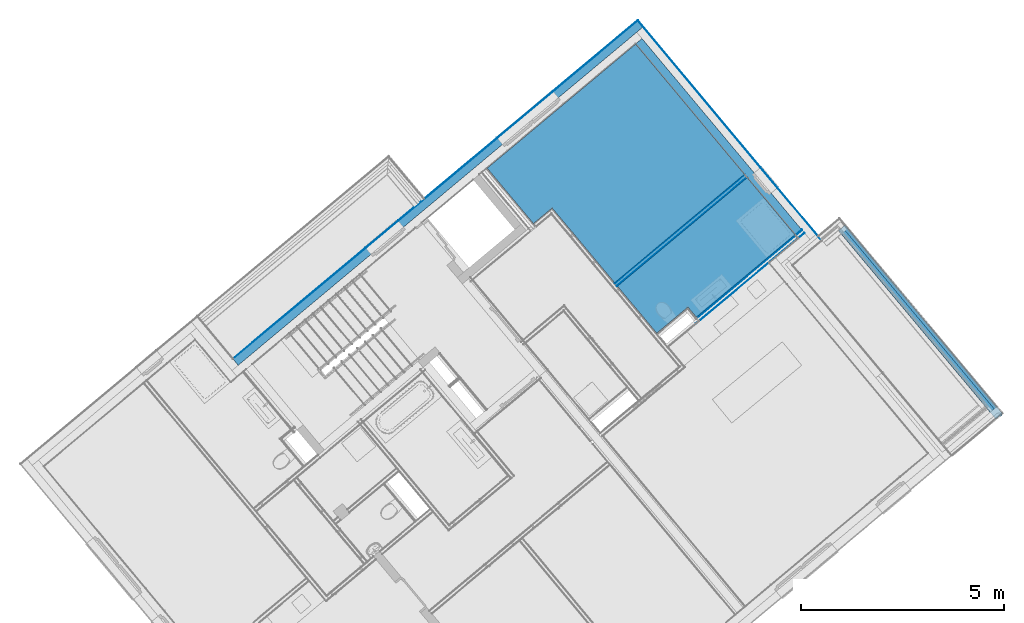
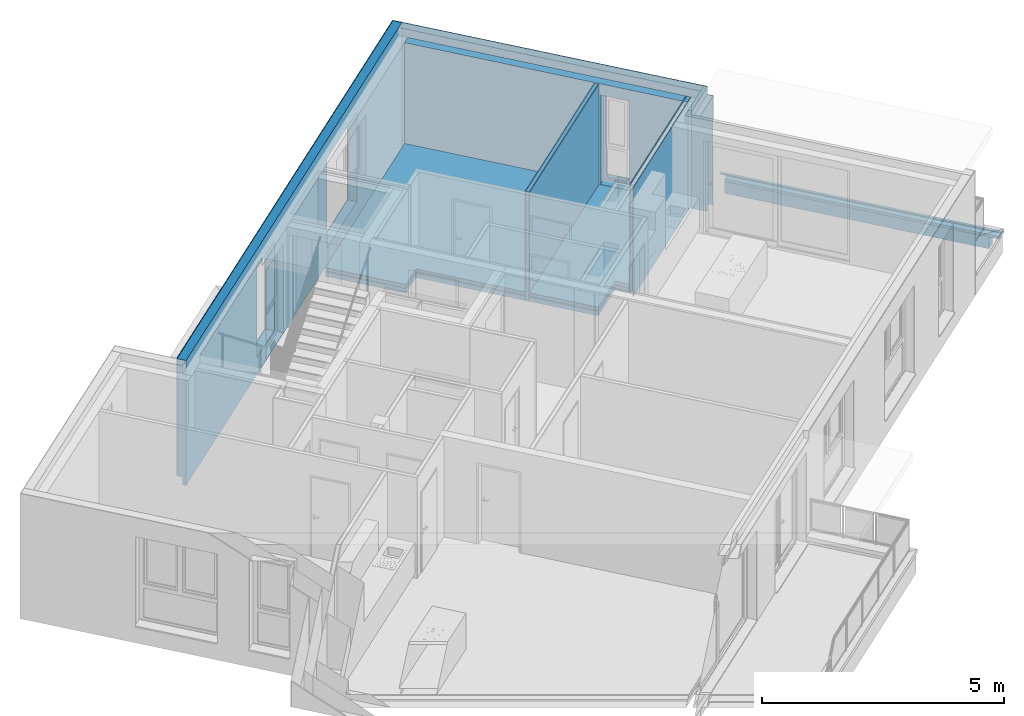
# One storey, part 34 of 50: 21 building element parts, 3 openings, 7 elements without a shape of their own.
"""IFC4 building model written with IfcOpenShell, lengths in metres."""

from ifc_helpers import new_model, entity, si_unit, converted_unit, derived_unit, direction, frame, origin_with_axes, place, context, subcontext, project, spatial, polygons, material, type_object, element, aggregate, save


model = new_model("IFC4")

# Units and contexts
model_context = context("Model", 3, precision=1e-05, world=origin_with_axes(), true_north=direction((0.0, 1.0)))
body_context = subcontext(model_context, "Body", "Model", "MODEL_VIEW")
ifc_project = project(units=[si_unit("LENGTHUNIT", "METRE"), si_unit("AREAUNIT", "SQUARE_METRE"), si_unit("VOLUMEUNIT", "CUBIC_METRE"), converted_unit("PLANEANGLEUNIT", "DEGREE", entity("IfcPlaneAngleMeasure", 0.0174532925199), si_unit("PLANEANGLEUNIT", "RADIAN"), dimensions=[0, 0, 0, 0, 0, 0, 0]), converted_unit("TIMEUNIT", "Year", entity("IfcTimeMeasure", 31556926.0), si_unit("TIMEUNIT", "SECOND"), dimensions=[0, 0, 1, 0, 0, 0, 0]), si_unit("MASSUNIT", "GRAM", prefix="KILO"), si_unit("THERMODYNAMICTEMPERATUREUNIT", "DEGREE_CELSIUS"), si_unit("LUMINOUSINTENSITYUNIT", "LUMEN"), si_unit("ENERGYUNIT", "JOULE", prefix="MEGA"), derived_unit("THERMALCONDUCTANCEUNIT", [(si_unit("POWERUNIT", "WATT"), 1), (si_unit("LENGTHUNIT", "METRE"), -1), (si_unit("THERMODYNAMICTEMPERATUREUNIT", "KELVIN"), -1)]), derived_unit("SPECIFICHEATCAPACITYUNIT", [(si_unit("ENERGYUNIT", "JOULE"), 1), (si_unit("MASSUNIT", "GRAM", prefix="KILO"), -1), (si_unit("THERMODYNAMICTEMPERATUREUNIT", "KELVIN"), -1)]), derived_unit("MASSDENSITYUNIT", [(si_unit("MASSUNIT", "GRAM", prefix="KILO"), 1), (si_unit("VOLUMEUNIT", "CUBIC_METRE"), -1)])], contexts=[model_context])

# Site, building, storey
site_placement = place(None, frame((-0.00153261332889, -0.00661245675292, 0.0), z_axis=(0.0, 0.0, 1.0), x_axis=(1.0, 0.0, 0.0)))
site = spatial("IfcSite", under=ifc_project, at=site_placement, Name="Site", CompositionType="ELEMENT")
building_placement = place(site_placement, origin_with_axes())
building = spatial("IfcBuilding", under=site, at=building_placement, Name="Building", CompositionType="ELEMENT")
storey_placement = place(building_placement, frame((0.0, 0.0, 2.74), z_axis=(0.0, 0.0, 1.0), x_axis=(1.0, 0.0, 0.0)))
storey = spatial("IfcBuildingStorey", under=building, at=storey_placement, Name="OG1", CompositionType="ELEMENT", Elevation=2.74)

# Wall, openings, building element parts
wall_type_1 = type_object("IfcWallType", Name="AW EG 420", PredefinedType="NOTDEFINED")
wall_1_placement = place(storey_placement, frame((-4.30928730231, 22.6730576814, -0.2), z_axis=(0.0, 0.0, 1.0), x_axis=(0.76736585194, 0.641209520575, 0.0)))
wall_1 = element("IfcWall", 1, at=wall_1_placement, inside=storey, type_object=wall_type_1, Name="Wand-002", PredefinedType="NOTDEFINED")
opening_1_placement = place(wall_1_placement, frame((9.36342387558, 0.0, 0.42), z_axis=(0.0, 0.0, 1.0), x_axis=(1.0, 0.0, 0.0)))
element("IfcOpeningElement", 2, at=opening_1_placement, cuts=wall_1, Name="Fenster-001", context=body_context, identifier="Reference", shape_type="Tessellation", body=[
    polygons([(-0.9, -0.215, 0.0), (-0.9, -0.215, 2.26), (-0.9, 6.39300119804, 2.26), (-0.9, 6.39300119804, 0.0), (-0.9, -6.81300119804, 0.0), (-0.9, -6.81300119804, 2.26), (0.9, -0.215, 2.26), (0.9, 6.39300119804, 2.26), (0.9, -6.81300119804, 2.26), (0.9, 6.39300119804, 0.0), (0.9, -0.215, 0.0), (0.9, -6.81300119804, 0.0)], [[[1, 2, 3, 4]], [[2, 1, 5, 6]], [[7, 8, 3, 2, 6, 9]], [[8, 10, 4, 3]], [[1, 4, 10, 11, 12, 5]], [[6, 5, 12, 9]], [[7, 11, 10, 8]], [[11, 7, 9, 12]]], closed=True),
])
opening_2_placement = place(wall_1_placement, frame((4.76823224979, 0.0, 0.42), z_axis=(0.0, 0.0, 1.0), x_axis=(1.0, 0.0, 0.0)))
element("IfcOpeningElement", 3, at=opening_2_placement, cuts=wall_1, Name="Fenster-001", context=body_context, identifier="Reference", shape_type="Tessellation", body=[
    polygons([(-0.525, -0.215, 0.0), (-0.525, -0.215, 2.26), (-0.525, 6.39300119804, 2.26), (-0.525, 6.39300119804, 0.0), (-0.525, -6.81300119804, 0.0), (-0.525, -6.81300119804, 2.26), (0.525, -0.215, 2.26), (0.525, 6.39300119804, 2.26), (0.525, -6.81300119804, 2.26), (0.525, 6.39300119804, 0.0), (0.525, -0.215, 0.0), (0.525, -6.81300119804, 0.0)], [[[1, 2, 3, 4]], [[2, 1, 5, 6]], [[7, 8, 3, 2, 6, 9]], [[8, 10, 4, 3]], [[1, 4, 10, 11, 12, 5]], [[6, 5, 12, 9]], [[7, 11, 10, 8]], [[11, 7, 9, 12]]], closed=True),
])
ifc_material_1 = material(Name="Zementputz")
building_element_part_1_placement = place(wall_1_placement, origin_with_axes())
building_element_part_1 = element("IfcBuildingElementPart", 4, at=building_element_part_1_placement, material=ifc_material_1, Name="Zementputz", PredefinedType="NOTDEFINED", context=body_context, shape_type="Tessellation", body=[
    polygons([(0.0, 0.0, 3.16), (12.9907557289, 0.0, 3.16), (12.9907557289, 0.0, 0.0), (6.11693794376, 0.0, 0.0), (6.11693794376, 0.0, 0.2), (5.91693793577, 0.0, 0.2), (5.91693793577, 0.0, 0.215), (0.0, 0.0, 0.215), (10.2634238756, 0.0, 0.42), (10.2634238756, 0.0, 2.68), (8.46342387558, 0.0, 2.68), (8.46342387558, 0.0, 0.42), (4.24323224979, 0.0, 0.42), (5.29323224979, 0.0, 0.42), (5.29323224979, 0.0, 2.68), (4.24323224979, 0.0, 2.68), (-5.64821416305e-08, -0.015, 3.16), (12.9907557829, -0.015, 3.16), (12.9907557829, -0.015, 0.0), (6.11693794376, -0.015, 0.0), (6.11693794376, -0.015, 0.2), (5.91693793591, -0.01500000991, 0.2), (5.91693793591, -0.01500000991, 0.215), (-5.64821398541e-08, -0.0150000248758, 0.215), (10.2634238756, -0.01500000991, 2.68), (10.2634238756, -0.01500000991, 0.42), (8.46342387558, -0.01500000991, 2.68), (8.46342387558, -0.01500000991, 0.42), (4.24323224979, -0.015, 0.42), (5.29323224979, -0.015, 0.42), (5.29323224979, -0.015, 2.68), (4.24323224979, -0.015, 2.68)], [[[1, 2, 3, 4, 5, 6, 7, 8], [9, 10, 11, 12], [13, 14, 15, 16]], [[1, 17, 18, 2]], [[19, 3, 2, 18]], [[3, 19, 20, 4]], [[5, 4, 20, 21]], [[5, 21, 22, 6]], [[7, 6, 22, 23]], [[8, 7, 23, 24]], [[17, 1, 8, 24]], [[25, 10, 9, 26]], [[27, 11, 10, 25]], [[28, 12, 11, 27]], [[26, 9, 12, 28]], [[29, 30, 14, 13]], [[30, 31, 15, 14]], [[31, 32, 16, 15]], [[32, 29, 13, 16]], [[21, 20, 19, 18, 17, 24, 23, 22], [27, 25, 26, 28], [29, 32, 31, 30]]], closed=True),
])
ifc_material_2 = material(Name="EPS 1")
building_element_part_2_placement = place(wall_1_placement, origin_with_axes())
building_element_part_2 = element("IfcBuildingElementPart", 5, at=building_element_part_2_placement, material=ifc_material_2, Name="EPS 1", PredefinedType="NOTDEFINED", context=body_context, shape_type="Tessellation", body=[
    polygons([(6.11693794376, -0.015, 0.2), (-0.0150000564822, -0.015, 0.2), (-0.0150000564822, -0.015, 3.16), (12.9757557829, -0.015, 3.16), (12.9757557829, -0.015, 0.0), (6.11693794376, -0.015, 0.0), (10.2634238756, -0.015, 0.42), (10.2634238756, -0.015, 2.68), (8.46342387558, -0.015, 2.68), (8.46342387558, -0.015, 0.42), (4.24323224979, -0.015, 0.42), (5.29323224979, -0.015, 0.42), (5.29323224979, -0.015, 2.68), (4.24323224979, -0.015, 2.68), (6.11693794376, -0.135000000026, 0.2), (-0.0150005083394, -0.135000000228, 0.2), (-0.0150005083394, -0.135000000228, 0.0), (-0.0150008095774, -0.215, 0.0), (-0.0150008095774, -0.215, 3.16), (12.975756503, -0.215, 3.16), (12.975756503, -0.215, 0.0), (6.11693794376, -0.135000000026, 0.0), (10.2634238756, -0.215, 2.68), (10.2634238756, -0.215, 0.42), (8.46342387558, -0.215, 2.68), (8.46342387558, -0.215, 0.42), (4.24323224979, -0.215, 0.42), (5.29323224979, -0.215, 0.42), (5.29323224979, -0.215, 2.68), (4.24323224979, -0.215, 2.68)], [[[1, 2, 3, 4, 5, 6], [7, 8, 9, 10], [11, 12, 13, 14]], [[15, 16, 2, 1]], [[16, 17, 18, 19, 3, 2]], [[3, 19, 20, 4]], [[21, 5, 4, 20]], [[22, 6, 5, 21, 18, 17]], [[15, 1, 6, 22]], [[23, 8, 7, 24]], [[25, 9, 8, 23]], [[26, 10, 9, 25]], [[24, 7, 10, 26]], [[27, 28, 12, 11]], [[28, 29, 13, 12]], [[29, 30, 14, 13]], [[30, 27, 11, 14]], [[16, 15, 22, 17]], [[19, 18, 21, 20], [25, 23, 24, 26], [27, 30, 29, 28]]], closed=True),
])
aggregate(wall_1, [building_element_part_1, building_element_part_2])

# Wall, building element parts
wall_type_2 = type_object("IfcWallType", Name="IW LB 01 Leichtbautrennwand einfach 10,5 cm 105", PredefinedType="NOTDEFINED")
wall_2_placement = place(storey_placement, frame((5.08746071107, 24.5291530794, 0.0), z_axis=(0.0, 0.0, 1.0), x_axis=(0.767363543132, 0.641212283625, 0.0)))
wall_2 = element("IfcWall", 6, at=wall_2_placement, inside=storey, type_object=wall_type_2, Name="Wand-012", PredefinedType="NOTDEFINED")
ifc_material_3 = material(Name="Gipskarton")
building_element_part_3_placement = place(wall_2_placement, origin_with_axes())
building_element_part_3 = element("IfcBuildingElementPart", 7, at=building_element_part_3_placement, material=ifc_material_3, Name="Gipskarton", PredefinedType="NOTDEFINED", context=body_context, shape_type="Tessellation", body=[
    polygons([(4.16988271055, 0.0, 2.76), (0.0, 0.0, 2.76), (-5.40145741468e-08, -0.015, 2.76), (4.16988271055, -0.015, 2.76), (4.16988271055, 0.0, 0.0), (0.0, 0.0, 0.0), (-5.40145741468e-08, -0.015, 0.0), (4.16988271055, -0.015, 0.0)], [[[1, 2, 3, 4]], [[5, 6, 2, 1]], [[3, 2, 6, 7]], [[4, 3, 7, 8]], [[4, 8, 5, 1]], [[8, 7, 6, 5]]], closed=True),
])
ifc_material_4 = material(Name="Mineralwolle weich")
building_element_part_4_placement = place(wall_2_placement, origin_with_axes())
building_element_part_4 = element("IfcBuildingElementPart", 8, at=building_element_part_4_placement, material=ifc_material_4, Name="Mineralwolle weich", PredefinedType="NOTDEFINED", context=body_context, shape_type="Tessellation", body=[
    polygons([(4.16988271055, -0.015, 2.76), (-5.40145705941e-08, -0.015, 2.76), (-3.24066323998e-07, -0.09, 2.76), (4.16988271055, -0.09, 2.76), (4.16988271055, -0.015, 0.0), (-5.40145705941e-08, -0.015, 0.0), (-3.24066323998e-07, -0.09, 0.0), (4.16988271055, -0.09, 0.0)], [[[1, 2, 3, 4]], [[5, 6, 2, 1]], [[3, 2, 6, 7]], [[4, 3, 7, 8]], [[4, 8, 5, 1]], [[8, 7, 6, 5]]], closed=True),
])
building_element_part_5_placement = place(wall_2_placement, origin_with_axes())
building_element_part_5 = element("IfcBuildingElementPart", 9, at=building_element_part_5_placement, material=ifc_material_3, Name="Gipskarton", PredefinedType="NOTDEFINED", context=body_context, shape_type="Tessellation", body=[
    polygons([(4.16988271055, -0.09, 2.76), (-3.24066323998e-07, -0.09, 2.76), (-3.78076677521e-07, -0.105, 2.76), (4.16988271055, -0.105, 2.76), (4.16988271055, -0.09, 0.0), (-3.24066323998e-07, -0.09, 0.0), (-3.78076677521e-07, -0.105, 0.0), (4.16988271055, -0.105, 0.0)], [[[1, 2, 3, 4]], [[5, 6, 2, 1]], [[3, 2, 6, 7]], [[4, 3, 7, 8]], [[4, 8, 5, 1]], [[8, 7, 6, 5]]], closed=True),
])
aggregate(wall_2, [building_element_part_3, building_element_part_4, building_element_part_5])

wall_type_3 = type_object("IfcWallType", Name="LB 13 cm doppelte Vorsatzschale Bad  120", PredefinedType="NOTDEFINED")
wall_3_placement = place(storey_placement, frame((7.01975244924, 23.6147528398, 0.0), z_axis=(0.0, 0.0, 1.0), x_axis=(0.767363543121, 0.641212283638, 0.0)))
wall_3 = element("IfcWall", 10, at=wall_3_placement, inside=storey, type_object=wall_type_3, Name="Wand-013", PredefinedType="NOTDEFINED")
building_element_part_6_placement = place(wall_3_placement, origin_with_axes())
building_element_part_6 = element("IfcBuildingElementPart", 11, at=building_element_part_6_placement, material=ifc_material_3, Name="Gipskarton", PredefinedType="NOTDEFINED", context=body_context, shape_type="Tessellation", body=[
    polygons([(3.47843714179, 0.0, 0.0), (3.47843714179, -0.015, 0.0), (0.104964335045, -0.015, 0.0), (0.105000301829, 0.0, 0.0), (3.47843714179, 0.0, 2.76), (3.47843714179, -0.015, 2.76), (0.104964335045, -0.015, 2.76), (0.105000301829, 0.0, 2.76)], [[[1, 2, 3, 4]], [[1, 5, 6, 2]], [[2, 6, 7, 3]], [[4, 3, 7, 8]], [[5, 1, 4, 8]], [[6, 5, 8, 7]]], closed=True),
])
building_element_part_7_placement = place(wall_3_placement, origin_with_axes())
building_element_part_7 = element("IfcBuildingElementPart", 12, at=building_element_part_7_placement, material=ifc_material_3, Name="Gipskarton", PredefinedType="NOTDEFINED", context=body_context, shape_type="Tessellation", body=[
    polygons([(3.47843714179, -0.015, 0.0), (3.47843714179, -0.03, 0.0), (0.0899283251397, -0.03, 0.0), (0.0899642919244, -0.015, 0.0), (3.47843714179, -0.015, 2.76), (3.47843714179, -0.03, 2.76), (0.0899283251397, -0.03, 2.76), (0.0899642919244, -0.015, 2.76)], [[[1, 2, 3, 4]], [[1, 5, 6, 2]], [[2, 6, 7, 3]], [[4, 3, 7, 8]], [[5, 1, 4, 8]], [[6, 5, 8, 7]]], closed=True),
])
ifc_material_5 = material(Name="Gipsputz")
building_element_part_8_placement = place(wall_3_placement, origin_with_axes())
building_element_part_8 = element("IfcBuildingElementPart", 13, at=building_element_part_8_placement, material=ifc_material_5, Name="Gipsputz", PredefinedType="NOTDEFINED", context=body_context, shape_type="Tessellation", body=[
    polygons([(3.47843714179, -0.105, 0.0), (3.47843714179, -0.12, 0.0), (-0.000287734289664, -0.12, 0.0), (-0.00025176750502, -0.105, 0.0), (3.47843714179, -0.105, 2.76), (3.47843714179, -0.12, 2.76), (-0.000287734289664, -0.12, 2.76), (-0.00025176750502, -0.105, 2.76)], [[[1, 2, 3, 4]], [[1, 5, 6, 2]], [[2, 6, 7, 3]], [[4, 3, 7, 8]], [[5, 1, 4, 8]], [[6, 5, 8, 7]]], closed=True),
])
aggregate(wall_3, [building_element_part_6, building_element_part_7, building_element_part_8])

# Wall, opening, building element parts
wall_4_placement = place(storey_placement, frame((10.2002241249, 25.5686441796, -0.2), z_axis=(0.0, 0.0, 1.0), x_axis=(-0.641212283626, 0.767363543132, 0.0)))
wall_4 = element("IfcWall", 14, at=wall_4_placement, inside=storey, type_object=wall_type_1, Name="Wand-002", PredefinedType="NOTDEFINED")
opening_3_placement = place(wall_4_placement, frame((2.02991923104, 0.0, 0.42), z_axis=(0.0, 0.0, 1.0), x_axis=(1.0, 0.0, 0.0)))
element("IfcOpeningElement", 15, at=opening_3_placement, cuts=wall_4, Name="Fenster-001", context=body_context, identifier="Reference", shape_type="Tessellation", body=[
    polygons([(0.325, 0.215, 0.0), (0.325, 0.215, 2.26), (0.325, -3.48548204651, 2.26), (0.325, -3.48548204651, 0.0), (0.325, 3.90548204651, 0.0), (0.325, 3.90548204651, 2.26), (-0.325, 0.215, 2.26), (-0.325, -3.48548204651, 2.26), (-0.325, 3.90548204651, 2.26), (-0.325, -3.48548204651, 0.0), (-0.325, 0.215, 0.0), (-0.325, 3.90548204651, 0.0)], [[[1, 2, 3, 4]], [[2, 1, 5, 6]], [[7, 8, 3, 2, 6, 9]], [[8, 10, 4, 3]], [[1, 4, 10, 11, 12, 5]], [[6, 5, 12, 9]], [[7, 11, 10, 8]], [[11, 7, 9, 12]]], closed=True),
])
ifc_material_6 = material(Name="Stahlbeton Wand")
building_element_part_9_placement = place(wall_4_placement, origin_with_axes())
building_element_part_9 = element("IfcBuildingElementPart", 16, at=building_element_part_9_placement, material=ifc_material_6, Name="Stahlbeton Wand", PredefinedType="NOTDEFINED", context=body_context, shape_type="Tessellation", body=[
    polygons([(6.66666416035, 0.415, 2.96), (6.66666416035, 0.415, 0.2), (0.41500115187, 0.415, 0.2), (0.41500115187, 0.415, 2.96), (2.35491923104, 0.415, 0.42), (2.35491923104, 0.415, 2.68), (1.70491923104, 0.415, 2.68), (1.70491923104, 0.415, 0.42), (6.66666344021, 0.215000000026, 2.96), (6.66666344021, 0.215000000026, 0.2), (0.415000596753, 0.215000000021, 0.2), (0.415000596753, 0.215000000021, 2.96), (2.35491923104, 0.215, 0.42), (2.35491923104, 0.215, 2.68), (1.70491923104, 0.215, 2.68), (1.70491923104, 0.215, 0.42)], [[[1, 2, 3, 4], [5, 6, 7, 8]], [[9, 10, 2, 1]], [[11, 3, 2, 10]], [[4, 3, 11, 12]], [[12, 9, 1, 4]], [[13, 14, 6, 5]], [[14, 15, 7, 6]], [[15, 16, 8, 7]], [[16, 13, 5, 8]], [[12, 11, 10, 9], [13, 16, 15, 14]]], closed=True),
])
building_element_part_10_placement = place(wall_4_placement, origin_with_axes())
building_element_part_10 = element("IfcBuildingElementPart", 17, at=building_element_part_10_placement, material=ifc_material_1, Name="Zementputz", PredefinedType="NOTDEFINED", context=body_context, shape_type="Tessellation", body=[
    polygons([(0.134999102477, 0.015, 0.2), (0.0150000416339, 0.015, 0.2), (0.0150000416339, 0.015, 2.96), (0.134999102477, 0.015, 2.96), (0.134999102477, 0.015, 3.16), (7.06666272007, 0.015, 3.16), (7.06666272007, 0.015, 0.0), (0.134999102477, 0.015, 0.0), (2.35491923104, 0.015, 0.42), (2.35491923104, 0.015, 2.68), (1.70491923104, 0.015, 2.68), (1.70491923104, 0.015, 0.42), (0.0150000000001, 0.0, 0.2), (0.134999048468, 0.0, 0.2), (0.0150000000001, 0.0, 2.96), (0.134999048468, 0.0, 2.96), (0.134999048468, 0.0, 3.16), (7.06666266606, 0.0, 3.16), (7.06666266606, 0.0, 0.0), (0.134999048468, 0.0, 0.0), (2.35491923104, 0.0, 0.42), (2.35491923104, 0.0, 2.68), (1.70491923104, 0.0, 2.68), (1.70491923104, 0.0, 0.42)], [[[1, 2, 3, 4, 5, 6, 7, 8], [9, 10, 11, 12]], [[13, 2, 1, 14]], [[3, 2, 13, 15]], [[15, 16, 4, 3]], [[17, 5, 4, 16]], [[17, 18, 6, 5]], [[7, 6, 18, 19]], [[8, 7, 19, 20]], [[14, 1, 8, 20]], [[21, 22, 10, 9]], [[22, 23, 11, 10]], [[23, 24, 12, 11]], [[24, 21, 9, 12]], [[20, 19, 18, 17, 16, 15, 13, 14], [21, 24, 23, 22]]], closed=True),
])
aggregate(wall_4, [building_element_part_9, building_element_part_10])

# Covering, building element parts
covering_type_1 = type_object("IfcCoveringType", Name="DE 01 Decke Wohnung/Wohnung Fließen 220", PredefinedType="NOTDEFINED")
covering_1_placement = place(storey_placement, frame((5.15478771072, 24.448579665, 0.22), z_axis=(0.0, 0.0, 1.0), x_axis=(1.0, 0.0, 0.0)))
covering_1 = element("IfcCovering", 18, at=covering_1_placement, inside=storey, type_object=covering_type_1, Name="Decke-001", PredefinedType="NOTDEFINED")
ifc_material_7 = material(Name="Fliesen")
building_element_part_11_placement = place(covering_1_placement, origin_with_axes())
building_element_part_11 = element("IfcBuildingElementPart", 19, at=building_element_part_11_placement, material=ifc_material_7, Name="Fliesen", PredefinedType="NOTDEFINED", context=body_context, shape_type="Tessellation", body=[
    polygons([(0.969800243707, -1.16060595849, 0.0), (0.969800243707, -1.16060595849, -0.015), (1.71585376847, -0.537204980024, -0.015), (1.71585376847, -0.537204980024, 0.0), (0.0, 0.0, 0.0), (0.0, 0.0, -0.015), (3.19981626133, 2.6737802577, -0.015), (4.37688106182, 1.26514127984, -0.015), (1.94553838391, -0.766499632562, -0.015), (1.75805597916, -0.54103567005, -0.015), (1.75811086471, -0.540989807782, -0.015), (1.73903554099, -0.518161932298, -0.015), (1.71596857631, -0.537343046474, -0.015), (1.71596857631, -0.537343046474, 0.0), (1.73903554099, -0.518161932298, 0.0), (1.75811086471, -0.540989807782, 0.0), (1.75805597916, -0.54103567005, 0.0), (1.94553838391, -0.766499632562, 0.0), (4.37688106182, 1.26514127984, 0.0), (3.19981626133, 2.6737802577, 0.0)], [[[1, 2, 3, 4]], [[2, 1, 5, 6]], [[3, 2, 6, 7, 8, 9, 10, 11, 12, 13]], [[13, 14, 4, 3]], [[1, 4, 14, 15, 16, 17, 18, 19, 20, 5]], [[6, 5, 20, 7]], [[19, 8, 7, 20]], [[18, 9, 8, 19]], [[9, 18, 17, 10]], [[10, 17, 16, 11]], [[16, 15, 12, 11]], [[14, 13, 12, 15]]], closed=True),
])
ifc_material_8 = material(Name="Estrich")
building_element_part_12_placement = place(covering_1_placement, origin_with_axes())
building_element_part_12 = element("IfcBuildingElementPart", 20, at=building_element_part_12_placement, material=ifc_material_8, Name="Estrich", PredefinedType="NOTDEFINED", context=body_context, shape_type="Tessellation", body=[
    polygons([(0.969800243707, -1.16060595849, -0.015), (0.969800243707, -1.16060595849, -0.08), (1.71585376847, -0.537204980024, -0.08), (1.71585376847, -0.537204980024, -0.015), (0.0, 0.0, -0.015), (0.0, 0.0, -0.08), (3.19981626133, 2.6737802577, -0.08), (4.37688106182, 1.26514127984, -0.08), (1.94553838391, -0.766499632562, -0.08), (1.75805597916, -0.54103567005, -0.08), (1.75811086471, -0.540989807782, -0.08), (1.73903554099, -0.518161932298, -0.08), (1.71596857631, -0.537343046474, -0.08), (1.71596857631, -0.537343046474, -0.015), (1.73903554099, -0.518161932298, -0.015), (1.75811086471, -0.540989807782, -0.015), (1.75805597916, -0.54103567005, -0.015), (1.94553838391, -0.766499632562, -0.015), (4.37688106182, 1.26514127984, -0.015), (3.19981626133, 2.6737802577, -0.015)], [[[1, 2, 3, 4]], [[2, 1, 5, 6]], [[3, 2, 6, 7, 8, 9, 10, 11, 12, 13]], [[13, 14, 4, 3]], [[1, 4, 14, 15, 16, 17, 18, 19, 20, 5]], [[6, 5, 20, 7]], [[19, 8, 7, 20]], [[18, 9, 8, 19]], [[9, 18, 17, 10]], [[10, 17, 16, 11]], [[16, 15, 12, 11]], [[14, 13, 12, 15]]], closed=True),
])
ifc_material_9 = material(Name="Trittschalldämmung")
building_element_part_13_placement = place(covering_1_placement, origin_with_axes())
building_element_part_13 = element("IfcBuildingElementPart", 21, at=building_element_part_13_placement, material=ifc_material_9, Name="Trittschalldämmung", PredefinedType="NOTDEFINED", context=body_context, shape_type="Tessellation", body=[
    polygons([(0.969800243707, -1.16060595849, -0.08), (0.969800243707, -1.16060595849, -0.11), (1.71585376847, -0.537204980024, -0.11), (1.71585376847, -0.537204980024, -0.08), (0.0, 0.0, -0.08), (0.0, 0.0, -0.11), (3.19981626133, 2.6737802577, -0.11), (4.37688106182, 1.26514127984, -0.11), (1.94553838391, -0.766499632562, -0.11), (1.75805597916, -0.54103567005, -0.11), (1.75811086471, -0.540989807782, -0.11), (1.73903554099, -0.518161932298, -0.11), (1.71596857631, -0.537343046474, -0.11), (1.71596857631, -0.537343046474, -0.08), (1.73903554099, -0.518161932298, -0.08), (1.75811086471, -0.540989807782, -0.08), (1.75805597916, -0.54103567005, -0.08), (1.94553838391, -0.766499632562, -0.08), (4.37688106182, 1.26514127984, -0.08), (3.19981626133, 2.6737802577, -0.08)], [[[1, 2, 3, 4]], [[2, 1, 5, 6]], [[3, 2, 6, 7, 8, 9, 10, 11, 12, 13]], [[13, 14, 4, 3]], [[5, 1, 4, 14, 15, 16, 17, 18, 19, 20]], [[6, 5, 20, 7]], [[19, 8, 7, 20]], [[18, 9, 8, 19]], [[9, 18, 17, 10]], [[10, 17, 16, 11]], [[16, 15, 12, 11]], [[14, 13, 12, 15]]], closed=True),
])
ifc_material_10 = material(Name="Schüttung")
building_element_part_14_placement = place(covering_1_placement, origin_with_axes())
building_element_part_14 = element("IfcBuildingElementPart", 22, at=building_element_part_14_placement, material=ifc_material_10, Name="Schüttung", PredefinedType="NOTDEFINED", context=body_context, shape_type="Tessellation", body=[
    polygons([(0.969800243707, -1.16060595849, -0.11), (0.969800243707, -1.16060595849, -0.22), (1.71585376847, -0.537204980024, -0.22), (1.71585376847, -0.537204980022, -0.11), (0.0, 0.0, -0.11), (0.0, 0.0, -0.22), (3.19981626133, 2.6737802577, -0.22), (4.37688106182, 1.26514127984, -0.22), (1.94553838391, -0.766499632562, -0.22), (1.75805597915, -0.541035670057, -0.22), (1.75811086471, -0.540989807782, -0.22), (1.73903554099, -0.518161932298, -0.22), (1.71596857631, -0.537343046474, -0.22), (1.71596857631, -0.537343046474, -0.11), (1.73903554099, -0.518161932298, -0.11), (1.75811086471, -0.540989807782, -0.11), (1.75805597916, -0.54103567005, -0.11), (1.94553838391, -0.766499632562, -0.11), (4.37688106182, 1.26514127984, -0.11), (3.19981626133, 2.6737802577, -0.11)], [[[1, 2, 3, 4]], [[2, 1, 5, 6]], [[3, 2, 6, 7, 8, 9, 10, 11, 12, 13]], [[3, 13, 14, 4]], [[1, 4, 14, 15, 16, 17, 18, 19, 20, 5]], [[6, 5, 20, 7]], [[19, 8, 7, 20]], [[18, 9, 8, 19]], [[9, 18, 17, 10]], [[11, 10, 17, 16]], [[12, 11, 16, 15]], [[14, 13, 12, 15]]], closed=True),
])
aggregate(covering_1, [building_element_part_11, building_element_part_12, building_element_part_13, building_element_part_14])

covering_type_2 = type_object("IfcCoveringType", Name="DE 01 Decke Wohnung/Wohnung Parkett 220", PredefinedType="NOTDEFINED")
covering_2_placement = place(storey_placement, frame((1.94716383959, 27.3536100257, 0.22), z_axis=(0.0, 0.0, 1.0), x_axis=(1.0, 0.0, 0.0)))
covering_2 = element("IfcCovering", 23, at=covering_2_placement, inside=storey, type_object=covering_type_2, Name="Decke-005", PredefinedType="NOTDEFINED")
ifc_material_11 = material(Name="Parkett")
building_element_part_15_placement = place(covering_2_placement, origin_with_axes())
building_element_part_15 = element("IfcBuildingElementPart", 24, at=building_element_part_15_placement, material=ifc_material_11, Name="Parkett", PredefinedType="NOTDEFINED", context=body_context, shape_type="Tessellation", body=[
    polygons([(0.0, 0.0, 0.0), (0.0, 0.0, -0.015), (1.14208254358, -1.36678718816, -0.015), (1.14208254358, -1.36678718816, 0.0), (3.65922669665, 3.05764322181, 0.0), (3.65922669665, 3.05764322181, -0.015), (1.60148856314, -0.982894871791, -0.015), (6.34011284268, -0.150676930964, -0.015), (3.14029687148, -2.82445694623, -0.015), (1.60148856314, -0.982894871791, 0.0), (6.34011284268, -0.150676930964, 0.0), (3.14029687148, -2.82445694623, 0.0)], [[[1, 2, 3, 4]], [[5, 6, 2, 1]], [[7, 3, 2, 6, 8, 9]], [[4, 3, 7, 10]], [[11, 5, 1, 4, 10, 12]], [[11, 8, 6, 5]], [[12, 9, 8, 11]], [[10, 7, 9, 12]]], closed=True),
])
building_element_part_16_placement = place(covering_2_placement, origin_with_axes())
building_element_part_16 = element("IfcBuildingElementPart", 25, at=building_element_part_16_placement, material=ifc_material_8, Name="Estrich", PredefinedType="NOTDEFINED", context=body_context, shape_type="Tessellation", body=[
    polygons([(0.0, 0.0, -0.015), (0.0, 0.0, -0.08), (1.14208254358, -1.36678718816, -0.08), (1.14208254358, -1.36678718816, -0.015), (3.65922669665, 3.05764322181, -0.015), (3.65922669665, 3.05764322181, -0.08), (1.60148856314, -0.982894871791, -0.08), (6.34011284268, -0.150676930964, -0.08), (3.14029687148, -2.82445694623, -0.08), (1.60148856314, -0.982894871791, -0.015), (6.34011284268, -0.150676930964, -0.015), (3.14029687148, -2.82445694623, -0.015)], [[[1, 2, 3, 4]], [[5, 6, 2, 1]], [[7, 3, 2, 6, 8, 9]], [[4, 3, 7, 10]], [[11, 5, 1, 4, 10, 12]], [[11, 8, 6, 5]], [[12, 9, 8, 11]], [[10, 7, 9, 12]]], closed=True),
])
building_element_part_17_placement = place(covering_2_placement, origin_with_axes())
building_element_part_17 = element("IfcBuildingElementPart", 26, at=building_element_part_17_placement, material=ifc_material_9, Name="Trittschalldämmung", PredefinedType="NOTDEFINED", context=body_context, shape_type="Tessellation", body=[
    polygons([(0.0, 0.0, -0.08), (0.0, 0.0, -0.11), (1.14208254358, -1.36678718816, -0.11), (1.14208254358, -1.36678718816, -0.08), (3.65922669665, 3.05764322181, -0.08), (3.65922669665, 3.05764322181, -0.11), (1.60148856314, -0.982894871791, -0.11), (6.34011284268, -0.150676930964, -0.11), (3.14029687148, -2.82445694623, -0.11), (1.60148856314, -0.982894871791, -0.08), (6.34011284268, -0.150676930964, -0.08), (3.14029687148, -2.82445694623, -0.08)], [[[1, 2, 3, 4]], [[5, 6, 2, 1]], [[7, 3, 2, 6, 8, 9]], [[4, 3, 7, 10]], [[11, 5, 1, 4, 10, 12]], [[11, 8, 6, 5]], [[12, 9, 8, 11]], [[10, 7, 9, 12]]], closed=True),
])
building_element_part_18_placement = place(covering_2_placement, origin_with_axes())
building_element_part_18 = element("IfcBuildingElementPart", 27, at=building_element_part_18_placement, material=ifc_material_10, Name="Schüttung", PredefinedType="NOTDEFINED", context=body_context, shape_type="Tessellation", body=[
    polygons([(1.14208254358, -1.36678718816, -0.11), (0.0, 0.0, -0.11), (0.0, 0.0, -0.22), (1.14208254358, -1.36678718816, -0.22), (6.34011284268, -0.150676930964, -0.11), (3.65922669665, 3.05764322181, -0.11), (1.60148856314, -0.982894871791, -0.11), (3.14029687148, -2.82445694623, -0.11), (3.65922669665, 3.05764322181, -0.22), (1.60148856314, -0.982894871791, -0.22), (6.34011284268, -0.150676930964, -0.22), (3.14029687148, -2.82445694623, -0.22)], [[[1, 2, 3, 4]], [[5, 6, 2, 1, 7, 8]], [[2, 6, 9, 3]], [[10, 4, 3, 9, 11, 12]], [[7, 1, 4, 10]], [[6, 5, 11, 9]], [[8, 7, 10, 12]], [[5, 8, 12, 11]]], closed=True),
])
aggregate(covering_2, [building_element_part_15, building_element_part_16, building_element_part_17, building_element_part_18])

# Wall, building element parts
wall_type_4 = type_object("IfcWallType", Name="Bauteil - Attika Balkon 356 x 610", PredefinedType="NOTDEFINED")
wall_5_placement = place(storey_placement, frame((10.5963720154, 25.814959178, -0.2), z_axis=(0.0, 0.0, 1.0), x_axis=(0.641206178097, -0.767368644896, 0.0)))
wall_5 = element("IfcWall", 28, at=wall_5_placement, inside=storey, type_object=wall_type_4, Name="Wand-003", PredefinedType="NOTDEFINED")
ifc_material_12 = material(Name="Vollholz")
building_element_part_19_placement = place(wall_5_placement, origin_with_axes())
building_element_part_19 = element("IfcBuildingElementPart", 29, at=building_element_part_19_placement, material=ifc_material_12, Name="Vollholz", PredefinedType="NOTDEFINED", context=body_context, shape_type="Tessellation", body=[
    polygons([(6.01965317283, 0.189984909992, 0.586106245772), (6.01966414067, 0.189996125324, 0.584015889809), (6.01967537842, 0.190007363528, 0.581921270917), (6.06981907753, 0.190007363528, 0.581921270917), (6.0711682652, 0.190007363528, 0.581921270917), (6.07116826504, 0.190039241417, 0.575979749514), (6.06981868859, 0.190039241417, 0.575979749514), (6.01970725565, 0.190039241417, 0.575979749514), (6.0197094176, 0.190041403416, 0.575576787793), (6.01971851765, 0.190050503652, 0.573880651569), (6.01975034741, 0.190082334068, 0.567947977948), (6.01979298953, 0.190124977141, 0.560000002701), (-0.130126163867, 0.190124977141, 0.560000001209), (-0.130126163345, 0.190041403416, 0.575576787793), (-0.130126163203, 0.190018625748, 0.57982217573), (-0.130126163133, 0.190007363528, 0.581921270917), (-0.130126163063, 0.189996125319, 0.584015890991), (-0.189986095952, 0.189984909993, 0.586106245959), (6.0196644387, 0.130124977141, 0.584015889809), (6.01967567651, 0.130124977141, 0.581921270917), (6.06981937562, 0.130124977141, 0.581921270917), (6.07116856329, 0.130124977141, 0.581921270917), (6.07116856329, 0.130124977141, 0.575979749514), (6.06981898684, 0.130124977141, 0.575979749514), (6.0197075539, 0.130124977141, 0.575979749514), (6.01970971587, 0.130124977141, 0.575576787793), (6.01971881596, 0.130124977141, 0.573880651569), (6.01975064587, 0.130124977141, 0.567947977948), (6.01979328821, 0.130124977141, 0.560000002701), (-0.130125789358, 0.130124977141, 0.560000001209), (-0.130125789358, 0.130124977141, 0.575576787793), (-0.130125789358, 0.130124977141, 0.57982217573), (-0.130125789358, 0.130124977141, 0.581921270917), (-0.130125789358, 0.130124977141, 0.584015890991)], [[[1, 2, 3, 4, 5, 6, 7, 8, 9, 10, 11, 12, 13, 14, 15, 16, 17, 18]], [[19, 2, 1]], [[2, 19, 20, 3]], [[20, 21, 4, 3]], [[5, 4, 21, 22]], [[23, 6, 5, 22]], [[23, 24, 7, 6]], [[25, 8, 7, 24]], [[26, 9, 8, 25]], [[10, 9, 26, 27]], [[28, 11, 10, 27]], [[11, 28, 29, 12]], [[30, 13, 12, 29]], [[14, 13, 30, 31]], [[14, 31, 32, 15]], [[16, 15, 32, 33]], [[16, 33, 34, 17]], [[17, 34, 18]], [[19, 1, 18, 34]], [[25, 24, 23, 22, 21, 20, 19, 34, 33, 32, 31, 30, 29, 28, 27, 26]]], closed=True),
])
ifc_material_13 = material(Name="Brettschichtholz")
building_element_part_20_placement = place(wall_5_placement, origin_with_axes())
building_element_part_20 = element("IfcBuildingElementPart", 30, at=building_element_part_20_placement, material=ifc_material_13, Name="Brettschichtholz", PredefinedType="NOTDEFINED", context=body_context, shape_type="Tessellation", body=[
    polygons([(6.04466799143, 0.190124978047, 0.560000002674), (6.0446678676, 0.214999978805, 0.560000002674), (-1.34205095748e-06, 0.214999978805, 0.560000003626), (-1.18678595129e-06, 0.190124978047, 0.560000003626), (6.04466786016, 0.214999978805, 0.519273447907), (6.04466829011, 0.130124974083, 0.560000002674), (6.0446685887, 0.0701429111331, 0.560000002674), (6.04466888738, 0.010142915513, 0.560000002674), (6.04466893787, 0.0, 0.560000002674), (6.04466893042, 0.0, 0.519273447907), (6.04466786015, 0.214999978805, 0.519224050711), (6.04466785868, 0.214999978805, 0.511410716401), (6.04466785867, 0.214999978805, 0.51136132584), (6.04466785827, 0.214999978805, 0.509099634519), (6.04466785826, 0.214999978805, 0.509050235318), (6.04466785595, 0.214999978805, 0.50000001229), (-1.34205095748e-06, 0.214999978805, 0.499999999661), (-1.34205096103e-06, 0.214999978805, 0.506731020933), (-1.34205096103e-06, 0.214999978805, 0.509099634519), (-1.34205096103e-06, 0.214999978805, 0.511410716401), (-1.34205096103e-06, 0.214999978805, 0.519273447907), (0.0, 0.0, 0.519273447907), (0.0, 0.0, 0.560000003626), (-6.33722585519e-08, 0.010142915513, 0.560000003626), (-4.378807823e-07, 0.0701429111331, 0.560000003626), (-8.12277374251e-07, 0.130124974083, 0.560000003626), (0.0, 0.0, 0.511410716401), (0.0, 0.0, 0.509099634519), (0.0, 0.0, 0.506731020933), (0.0, 0.0, 0.499999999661), (6.04466892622, 0.0, 0.50000001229), (6.04466892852, 0.0, 0.509050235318), (6.04466892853, 0.0, 0.509099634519), (6.04466892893, 0.0, 0.51136132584), (6.04466892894, 0.0, 0.511410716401), (6.04466893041, 0.0, 0.519224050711)], [[[1, 2, 3, 4]], [[5, 2, 1, 6, 7, 8, 9, 10]], [[2, 5, 11, 12, 13, 14, 15, 16, 17, 18, 19, 20, 21, 3]], [[4, 3, 21, 22, 23, 24, 25, 26]], [[6, 1, 4, 26]], [[7, 6, 26, 25]], [[8, 7, 25, 24]], [[9, 8, 24, 23]], [[10, 9, 23, 22, 27, 28, 29, 30, 31, 32, 33, 34, 35, 36]], [[5, 10, 36, 11]], [[11, 36, 35, 12]], [[12, 35, 34, 13]], [[13, 34, 33, 14]], [[14, 33, 32, 15]], [[15, 32, 31, 16]], [[30, 17, 16, 31]], [[29, 18, 17, 30]], [[28, 19, 18, 29]], [[27, 20, 19, 28]], [[22, 21, 20, 27]]], closed=True),
])
ifc_material_14 = material(Name="Stahlbeton")
building_element_part_21_placement = place(wall_5_placement, origin_with_axes())
building_element_part_21 = element("IfcBuildingElementPart", 31, at=building_element_part_21_placement, material=ifc_material_14, Name="Stahlbeton", PredefinedType="NOTDEFINED", context=body_context, shape_type="Tessellation", body=[
    polygons([(5.82966896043, 1.05297104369e-09, 0.500000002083), (5.82966796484, 0.19999996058, 0.500000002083), (-1.24941457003e-06, 0.19999996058, 0.500000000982), (-1.05297814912e-09, 1.05297104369e-09, 0.500000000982), (5.82966796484, 0.19999996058, 0.498915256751), (5.82966896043, 1.05297104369e-09, 0.498915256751), (5.82966796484, 0.19999996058, 0.498822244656), (5.82966796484, 0.19999996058, 0.496604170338), (5.82966796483, 0.19999996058, 0.491006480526), (5.82966796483, 0.19999996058, 0.488695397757), (5.82966796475, 0.19999996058, 0.335), (5.82966796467, 0.19999996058, 0.200000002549), (-1.24941457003e-06, 0.19999996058, 0.2), (-1.24941457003e-06, 0.19999996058, 0.334999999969), (-1.24941457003e-06, 0.19999996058, 0.496604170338), (-1.24941457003e-06, 0.19999996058, 0.498915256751), (-1.05298170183e-09, 1.0529745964e-09, 0.498915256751), (-1.05298170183e-09, 1.0529745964e-09, 0.496604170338), (-1.05297814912e-09, 1.05297104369e-09, 0.334999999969), (5.82966896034, 1.05297104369e-09, 0.335), (5.82966896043, 1.05297104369e-09, 0.488695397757), (5.82966896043, 1.05297104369e-09, 0.491006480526), (5.82966896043, 1.05297104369e-09, 0.496604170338), (5.82966896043, 1.05296749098e-09, 0.498822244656), (5.82966896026, 1.05297104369e-09, 0.200000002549), (-1.05298170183e-09, 1.05297104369e-09, 0.2)], [[[1, 2, 3, 4]], [[5, 2, 1, 6]], [[2, 5, 7, 8, 9, 10, 11, 12, 13, 14, 15, 16, 3]], [[4, 3, 16, 17]], [[6, 1, 4, 17, 18, 19, 20, 21, 22, 23, 24]], [[5, 6, 24, 7]], [[7, 24, 23, 8]], [[8, 23, 22, 9]], [[9, 22, 21, 10]], [[10, 21, 20, 11]], [[11, 20, 25, 12]], [[12, 25, 26, 13]], [[19, 14, 13, 26]], [[18, 15, 14, 19]], [[17, 16, 15, 18]], [[25, 20, 19, 26]]], closed=True),
])
aggregate(wall_5, [building_element_part_19, building_element_part_20, building_element_part_21])

save(model, "model.ifc")
